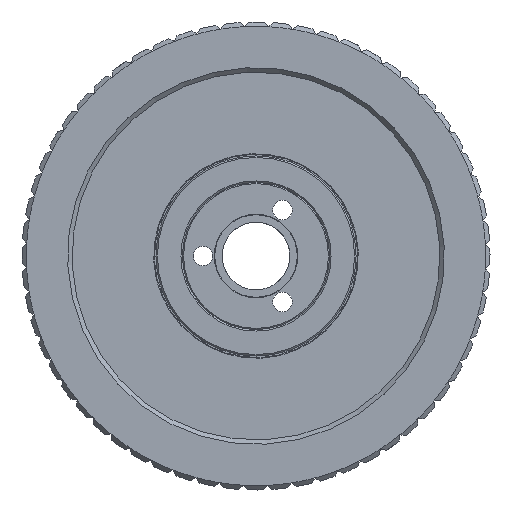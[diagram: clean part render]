
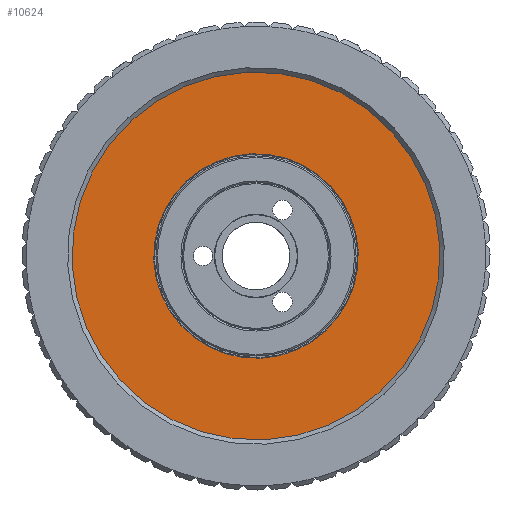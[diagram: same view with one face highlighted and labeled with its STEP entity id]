
A CAD part, left-side view. The second image highlights one B-rep face of the part: STEP entity #10624.
In plain terms, the highlighted planar face has unit normal (-1, 0, 0).
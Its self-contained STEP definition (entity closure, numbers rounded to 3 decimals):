
#2261=FACE_OUTER_BOUND('',#3795,.T.);
#3429=FACE_BOUND('',#3796,.T.);
#3795=EDGE_LOOP('',(#8507));
#3796=EDGE_LOOP('',(#8508));
#4321=CIRCLE('',#11450,34.75);
#4322=CIRCLE('',#11453,62.5);
#5086=VERTEX_POINT('',#16623);
#5087=VERTEX_POINT('',#16627);
#6256=EDGE_CURVE('',#5086,#5086,#4321,.T.);
#6257=EDGE_CURVE('',#5087,#5087,#4322,.T.);
#8507=ORIENTED_EDGE('',*,*,#6257,.F.);
#8508=ORIENTED_EDGE('',*,*,#6256,.F.);
#10194=PLANE('',#11452);
#10624=ADVANCED_FACE('',(#2261,#3429),#10194,.T.);
#11450=AXIS2_PLACEMENT_3D('',#16624,#13598,#13599);
#11452=AXIS2_PLACEMENT_3D('',#16626,#13602,#13603);
#11453=AXIS2_PLACEMENT_3D('',#16628,#13604,#13605);
#13598=DIRECTION('center_axis',(-1.,0.,0.));
#13599=DIRECTION('ref_axis',(0.,0.,-1.));
#13602=DIRECTION('center_axis',(-1.,0.,0.));
#13603=DIRECTION('ref_axis',(0.,0.,1.));
#13604=DIRECTION('center_axis',(1.,0.,0.));
#13605=DIRECTION('ref_axis',(0.,1.,0.));
#16623=CARTESIAN_POINT('',(7.,0.,34.75));
#16624=CARTESIAN_POINT('Origin',(7.,0.,0.));
#16626=CARTESIAN_POINT('Origin',(7.,43.75,0.));
#16627=CARTESIAN_POINT('',(7.,62.5,0.));
#16628=CARTESIAN_POINT('Origin',(7.,0.,0.));
